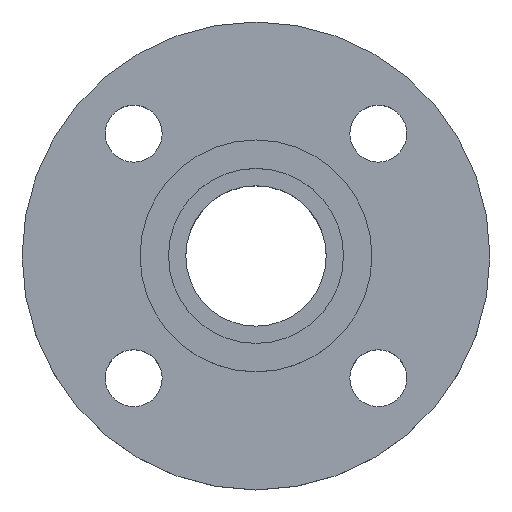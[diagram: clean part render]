
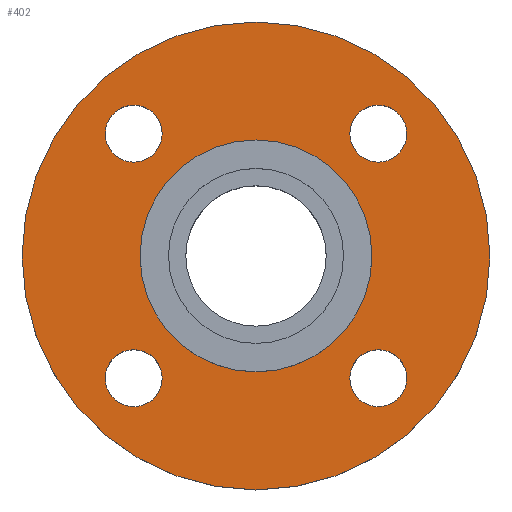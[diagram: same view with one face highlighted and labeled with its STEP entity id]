
A CAD part, top view. The second image highlights one B-rep face of the part: STEP entity #402.
In plain terms, the highlighted planar face has unit normal (0, 0, 1).
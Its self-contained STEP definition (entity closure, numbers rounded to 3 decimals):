
#37 = AXIS2_PLACEMENT_3D ( 'NONE', #423, #250, #256 ) ;
#41 = CIRCLE ( 'NONE', #70, 7. ) ;
#51 = CIRCLE ( 'NONE', #229, 7. ) ;
#70 = AXIS2_PLACEMENT_3D ( 'NONE', #258, #259, #261 ) ;
#72 = CARTESIAN_POINT ( 'NONE',  ( 37.052, -30.052, -4.5 ) ) ;
#75 = AXIS2_PLACEMENT_3D ( 'NONE', #329, #330, #332 ) ;
#78 = CARTESIAN_POINT ( 'NONE',  ( -37.052, 30.052, -4.5 ) ) ;
#79 = CIRCLE ( 'NONE', #75, 7. ) ;
#80 = CARTESIAN_POINT ( 'NONE',  ( 28.5, 0., -4.5 ) ) ;
#82 = CARTESIAN_POINT ( 'NONE',  ( -23.052, 30.052, -4.5 ) ) ;
#97 = CARTESIAN_POINT ( 'NONE',  ( -57.5, 0., -4.5 ) ) ;
#104 = CIRCLE ( 'NONE', #110, 7. ) ;
#107 = AXIS2_PLACEMENT_3D ( 'NONE', #312, #313, #314 ) ;
#110 = AXIS2_PLACEMENT_3D ( 'NONE', #326, #327, #328 ) ;
#121 = CARTESIAN_POINT ( 'NONE',  ( 23.052, 30.052, -4.5 ) ) ;
#122 = CARTESIAN_POINT ( 'NONE',  ( -23.052, -30.052, -4.5 ) ) ;
#147 = CIRCLE ( 'NONE', #372, 57.5 ) ;
#148 = DIRECTION ( 'NONE',  ( -1., 0., 0. ) ) ;
#150 = DIRECTION ( 'NONE',  ( 0., 0., -1. ) ) ;
#151 = CARTESIAN_POINT ( 'NONE',  ( 0., 0., -4.5 ) ) ;
#152 = DIRECTION ( 'NONE',  ( -1., 0., 0. ) ) ;
#154 = DIRECTION ( 'NONE',  ( 0., 0., -1. ) ) ;
#156 = CARTESIAN_POINT ( 'NONE',  ( 0., 0., -4.5 ) ) ;
#168 = CIRCLE ( 'NONE', #37, 7. ) ;
#170 = CARTESIAN_POINT ( 'NONE',  ( 30.052, -30.052, -4.5 ) ) ;
#175 = DIRECTION ( 'NONE',  ( 0., 0., -1. ) ) ;
#178 = EDGE_CURVE ( 'NONE', #434, #647, #221, .T. ) ;
#187 = CARTESIAN_POINT ( 'NONE',  ( -28.5, 0., -4.5 ) ) ;
#188 = CIRCLE ( 'NONE', #190, 57.5 ) ;
#189 = EDGE_CURVE ( 'NONE', #501, #467, #378, .T. ) ;
#190 = AXIS2_PLACEMENT_3D ( 'NONE', #156, #154, #152 ) ;
#191 = CIRCLE ( 'NONE', #194, 28.5 ) ;
#192 = DIRECTION ( 'NONE',  ( 1., 0., 0. ) ) ;
#194 = AXIS2_PLACEMENT_3D ( 'NONE', #151, #150, #148 ) ;
#209 = CARTESIAN_POINT ( 'NONE',  ( 0., 0., -4.5 ) ) ;
#221 = CIRCLE ( 'NONE', #396, 7. ) ;
#224 = CARTESIAN_POINT ( 'NONE',  ( -37.052, -30.052, -4.5 ) ) ;
#225 = VERTEX_POINT ( 'NONE', #715 ) ;
#229 = AXIS2_PLACEMENT_3D ( 'NONE', #170, #175, #192 ) ;
#243 = EDGE_CURVE ( 'NONE', #225, #507, #321, .T. ) ;
#249 = AXIS2_PLACEMENT_3D ( 'NONE', #766, #767, #768 ) ;
#250 = DIRECTION ( 'NONE',  ( 0., 0., -1. ) ) ;
#254 = CIRCLE ( 'NONE', #249, 28.5 ) ;
#256 = DIRECTION ( 'NONE',  ( 1., 0., 0. ) ) ;
#258 = CARTESIAN_POINT ( 'NONE',  ( 30.052, 30.052, -4.5 ) ) ;
#259 = DIRECTION ( 'NONE',  ( 0., 0., -1. ) ) ;
#261 = DIRECTION ( 'NONE',  ( 1., 0., 0. ) ) ;
#287 = AXIS2_PLACEMENT_3D ( 'NONE', #629, #723, #724 ) ;
#290 = EDGE_CURVE ( 'NONE', #448, #634, #254, .T. ) ;
#303 = FACE_BOUND ( 'NONE', #589, .T. ) ;
#304 = FACE_BOUND ( 'NONE', #493, .T. ) ;
#306 = FACE_BOUND ( 'NONE', #646, .T. ) ;
#307 = FACE_BOUND ( 'NONE', #623, .T. ) ;
#308 = FACE_BOUND ( 'NONE', #636, .T. ) ;
#309 = FACE_OUTER_BOUND ( 'NONE', #572, .T. ) ;
#310 = PLANE ( 'NONE',  #107 ) ;
#312 = CARTESIAN_POINT ( 'NONE',  ( 28.5, 0., -4.5 ) ) ;
#313 = DIRECTION ( 'NONE',  ( 0., 0., 1. ) ) ;
#314 = DIRECTION ( 'NONE',  ( 1., 0., 0. ) ) ;
#321 = CIRCLE ( 'NONE', #287, 7. ) ;
#326 = CARTESIAN_POINT ( 'NONE',  ( -30.052, 30.052, -4.5 ) ) ;
#327 = DIRECTION ( 'NONE',  ( 0., 0., -1. ) ) ;
#328 = DIRECTION ( 'NONE',  ( 1., 0., 0. ) ) ;
#329 = CARTESIAN_POINT ( 'NONE',  ( -30.052, 30.052, -4.5 ) ) ;
#330 = DIRECTION ( 'NONE',  ( 0., 0., -1. ) ) ;
#332 = DIRECTION ( 'NONE',  ( 1., 0., 0. ) ) ;
#350 = CARTESIAN_POINT ( 'NONE',  ( 23.052, -30.052, -4.5 ) ) ;
#354 = CARTESIAN_POINT ( 'NONE',  ( 57.5, 0., -4.5 ) ) ;
#369 = DIRECTION ( 'NONE',  ( 0., 0., -1. ) ) ;
#372 = AXIS2_PLACEMENT_3D ( 'NONE', #209, #369, #718 ) ;
#375 = AXIS2_PLACEMENT_3D ( 'NONE', #708, #709, #710 ) ;
#378 = CIRCLE ( 'NONE', #375, 7. ) ;
#388 = EDGE_CURVE ( 'NONE', #467, #501, #168, .T. ) ;
#391 = EDGE_CURVE ( 'NONE', #507, #225, #41, .T. ) ;
#396 = AXIS2_PLACEMENT_3D ( 'NONE', #701, #702, #703 ) ;
#402 = ADVANCED_FACE ( 'NONE', ( #303, #304, #306, #307, #308, #309 ), #310, .T. ) ;
#407 = EDGE_CURVE ( 'NONE', #640, #631, #104, .T. ) ;
#409 = EDGE_CURVE ( 'NONE', #631, #640, #79, .T. ) ;
#417 = VERTEX_POINT ( 'NONE', #354 ) ;
#420 = EDGE_CURVE ( 'NONE', #647, #434, #51, .T. ) ;
#422 = EDGE_CURVE ( 'NONE', #417, #561, #147, .T. ) ;
#423 = CARTESIAN_POINT ( 'NONE',  ( -30.052, -30.052, -4.5 ) ) ;
#434 = VERTEX_POINT ( 'NONE', #350 ) ;
#448 = VERTEX_POINT ( 'NONE', #187 ) ;
#462 = EDGE_CURVE ( 'NONE', #561, #417, #188, .T. ) ;
#465 = EDGE_CURVE ( 'NONE', #634, #448, #191, .T. ) ;
#467 = VERTEX_POINT ( 'NONE', #224 ) ;
#493 = EDGE_LOOP ( 'NONE', ( #546, #547 ) ) ;
#501 = VERTEX_POINT ( 'NONE', #122 ) ;
#507 = VERTEX_POINT ( 'NONE', #121 ) ;
#544 = ORIENTED_EDGE ( 'NONE', *, *, #420, .T. ) ;
#545 = ORIENTED_EDGE ( 'NONE', *, *, #178, .T. ) ;
#546 = ORIENTED_EDGE ( 'NONE', *, *, #189, .T. ) ;
#547 = ORIENTED_EDGE ( 'NONE', *, *, #388, .T. ) ;
#548 = ORIENTED_EDGE ( 'NONE', *, *, #409, .T. ) ;
#549 = ORIENTED_EDGE ( 'NONE', *, *, #407, .T. ) ;
#550 = ORIENTED_EDGE ( 'NONE', *, *, #243, .T. ) ;
#551 = ORIENTED_EDGE ( 'NONE', *, *, #391, .T. ) ;
#552 = ORIENTED_EDGE ( 'NONE', *, *, #290, .T. ) ;
#553 = ORIENTED_EDGE ( 'NONE', *, *, #465, .T. ) ;
#554 = ORIENTED_EDGE ( 'NONE', *, *, #422, .F. ) ;
#555 = ORIENTED_EDGE ( 'NONE', *, *, #462, .F. ) ;
#561 = VERTEX_POINT ( 'NONE', #97 ) ;
#572 = EDGE_LOOP ( 'NONE', ( #554, #555 ) ) ;
#589 = EDGE_LOOP ( 'NONE', ( #544, #545 ) ) ;
#623 = EDGE_LOOP ( 'NONE', ( #550, #551 ) ) ;
#629 = CARTESIAN_POINT ( 'NONE',  ( 30.052, 30.052, -4.5 ) ) ;
#631 = VERTEX_POINT ( 'NONE', #82 ) ;
#634 = VERTEX_POINT ( 'NONE', #80 ) ;
#636 = EDGE_LOOP ( 'NONE', ( #552, #553 ) ) ;
#640 = VERTEX_POINT ( 'NONE', #78 ) ;
#646 = EDGE_LOOP ( 'NONE', ( #548, #549 ) ) ;
#647 = VERTEX_POINT ( 'NONE', #72 ) ;
#701 = CARTESIAN_POINT ( 'NONE',  ( 30.052, -30.052, -4.5 ) ) ;
#702 = DIRECTION ( 'NONE',  ( 0., 0., -1. ) ) ;
#703 = DIRECTION ( 'NONE',  ( 1., 0., 0. ) ) ;
#708 = CARTESIAN_POINT ( 'NONE',  ( -30.052, -30.052, -4.5 ) ) ;
#709 = DIRECTION ( 'NONE',  ( 0., 0., -1. ) ) ;
#710 = DIRECTION ( 'NONE',  ( 1., 0., 0. ) ) ;
#715 = CARTESIAN_POINT ( 'NONE',  ( 37.052, 30.052, -4.5 ) ) ;
#718 = DIRECTION ( 'NONE',  ( -1., 0., 0. ) ) ;
#723 = DIRECTION ( 'NONE',  ( 0., 0., -1. ) ) ;
#724 = DIRECTION ( 'NONE',  ( 1., 0., 0. ) ) ;
#766 = CARTESIAN_POINT ( 'NONE',  ( 0., 0., -4.5 ) ) ;
#767 = DIRECTION ( 'NONE',  ( 0., 0., -1. ) ) ;
#768 = DIRECTION ( 'NONE',  ( -1., 0., 0. ) ) ;
